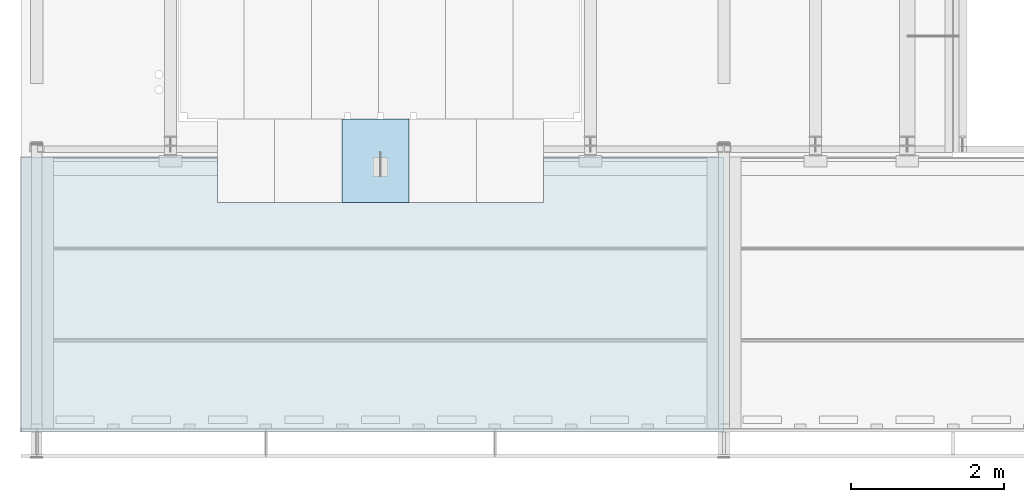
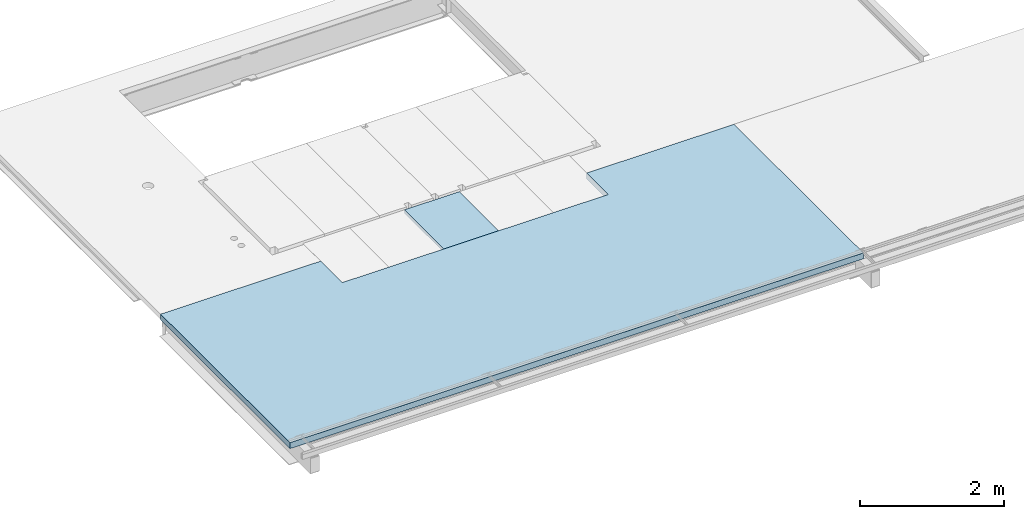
# One storey, part 10 of 13: 2 slabs.
"""IFC2X3 building model written with IfcOpenShell, lengths in millimetres."""

from ifc_helpers import new_model, entity, si_unit, converted_unit, derived_unit, direction, frame, origin_with_axes, place, context, subcontext, project, spatial, faceted_brep, material, type_object, element, save


model = new_model("IFC2X3")

# Units and contexts
model_context = context("Model", 3, precision=0.01, world=frame((0.0, 4.29681676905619e-09, 0.0)), true_north=direction((4.01073788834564e-13, 1.0)))
plan_context = context("Plan", 3, precision=0.01, world=frame((0.0, 4.29681676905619e-09, 0.0)), true_north=direction((4.01073788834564e-13, 1.0)))
body_context = subcontext(model_context, "Body", "Model", "MODEL_VIEW")
ifc_project = project(units=[converted_unit("PLANEANGLEUNIT", "DEGREE", entity("IfcPositiveLengthMeasure", 0.0174532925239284), si_unit("PLANEANGLEUNIT", "RADIAN"), dimensions=[0, 0, 0, 0, 0, 0, 0]), si_unit("AREAUNIT", "SQUARE_METRE"), si_unit("LENGTHUNIT", "METRE", prefix="MILLI"), si_unit("MASSUNIT", "GRAM", prefix="KILO"), si_unit("POWERUNIT", "WATT"), si_unit("PRESSUREUNIT", "PASCAL", prefix="KILO"), si_unit("FORCEUNIT", "NEWTON", prefix="KILO"), si_unit("ELECTRICVOLTAGEUNIT", "VOLT"), si_unit("ELECTRICCURRENTUNIT", "AMPERE"), si_unit("THERMODYNAMICTEMPERATUREUNIT", "DEGREE_CELSIUS"), si_unit("TIMEUNIT", "SECOND"), si_unit("VOLUMEUNIT", "CUBIC_METRE"), derived_unit("LINEARVELOCITYUNIT", [(si_unit("LENGTHUNIT", "METRE"), 1), (si_unit("TIMEUNIT", "SECOND"), -1)]), derived_unit("VOLUMETRICFLOWRATEUNIT", [(si_unit("VOLUMEUNIT", "CUBIC_METRE"), 1), (si_unit("TIMEUNIT", "SECOND"), -1)]), derived_unit("THERMALTRANSMITTANCEUNIT", [(si_unit("POWERUNIT", "WATT"), 1), (si_unit("THERMODYNAMICTEMPERATUREUNIT", "KELVIN"), -1), (si_unit("AREAUNIT", "SQUARE_METRE"), -1)]), derived_unit("SOUNDPRESSUREUNIT", [(si_unit("PRESSUREUNIT", "PASCAL"), 1)])], contexts=[model_context, plan_context])

# Site, building, storey
site_placement = place(None, frame((0.0, -4.29681676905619e-09, 0.0), z_axis=(0.0, 0.0, 1.0), x_axis=(1.0, 0.0, 0.0)))
site = spatial("IfcSite", under=ifc_project, at=site_placement, Name="Gardermoen", CompositionType="ELEMENT")
building_placement = place(site_placement, frame((0.0, 4.29681676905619e-09, 0.0), z_axis=(0.0, 0.0, 1.0), x_axis=(1.0, 0.0, 0.0)))
building = spatial("IfcBuilding", under=site, at=building_placement, Name="TG", CompositionType="ELEMENT")
storey_placement = place(building_placement, origin_with_axes())
storey = spatial("IfcBuildingStorey", under=building, at=storey_placement, Name="G", CompositionType="ELEMENT", Elevation=0.0)

# Slabs
ifc_material = material(Name="CONCRETE/C35/45")
slab_type_1 = type_object("IfcSlabType", Name="PLNJABE56.4*40*42.6*71*32.5", PredefinedType="NOTDEFINED")
slab_1_placement = place(storey_placement, frame((326436.0017314, 462614.999534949, 213610.5), z_axis=(0.0, 0.0, 1.0), x_axis=(-1.7069999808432e-06, -0.999999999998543, 0.0)))
element("IfcSlab", 1, at=slab_1_placement, inside=storey, type_object=slab_type_1, material=ifc_material, Name="PLASSTØPTDEKKE", ObjectType="PLNJABE56.4*40*42.6*71*32.5", PredefinedType="FLOOR", context=body_context, shape_type="Brep", body=[
    faceted_brep([(-9.89530235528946e-10, 420.00000000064, -6.89999999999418), (-1.04773789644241e-09, 440.00000000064, -6.89999999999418), (1095.00205200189, 440.000000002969, -6.89999999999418), (1095.00205200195, 420.000000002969, -6.89999999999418), (-1.04773789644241e-09, 440.00000000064, 49.5), (1095.00205200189, 440.000000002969, 49.5), (8.14907252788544e-10, -440.00000000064, 49.5), (1095.00205200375, -439.999999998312, 49.5), (8.14907252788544e-10, -440.00000000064, -6.89999999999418), (1095.00205200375, -439.999999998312, -6.89999999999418), (8.14907252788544e-10, -420.000000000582, -6.89999999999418), (1095.00205200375, -419.999999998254, -6.89999999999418), (7.56699591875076e-10, -387.500000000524, -49.5), (1095.00205200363, -387.499999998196, -49.5), (5.82076609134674e-10, -316.500000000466, -49.5), (1095.00205200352, -316.499999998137, -49.5), (5.23868948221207e-10, -284.000000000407, -6.89999999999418), (1095.00205200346, -283.999999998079, -6.89999999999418), (4.07453626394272e-10, -244.000000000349, -6.89999999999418), (1095.00205200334, -243.999999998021, -6.89999999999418), (3.49245965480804e-10, -211.500000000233, -49.5), (1095.00205200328, -211.499999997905, -49.5), (2.3283064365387e-10, -140.500000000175, -49.5), (1095.00205200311, -140.499999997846, -49.5), (1.16415321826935e-10, -108.000000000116, -6.89999999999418), (1095.00205200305, -107.999999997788, -6.89999999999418), (5.82076609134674e-11, -68.0000000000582, -6.89999999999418), (1095.00205200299, -67.9999999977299, -6.89999999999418), (0.0, -35.5000000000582, -49.5), (1095.00205200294, -35.4999999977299, -49.5), (-1.74622982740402e-10, 35.5000000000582, -49.5), (1095.00205200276, 35.5000000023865, -49.5), (-2.3283064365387e-10, 68.0000000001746, -6.89999999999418), (1095.0020520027, 68.0000000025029, -6.89999999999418), (-3.49245965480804e-10, 108.000000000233, -6.89999999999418), (1095.00205200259, 108.000000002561, -6.89999999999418), (-4.07453626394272e-10, 140.500000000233, -49.5), (1095.00205200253, 140.500000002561, -49.5), (-5.23868948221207e-10, 211.500000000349, -49.5), (1095.00205200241, 211.500000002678, -49.5), (-5.82076609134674e-10, 244.000000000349, -6.89999999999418), (1095.0020520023, 244.000000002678, -6.89999999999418), (-6.98491930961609e-10, 284.000000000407, -6.89999999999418), (1095.00205200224, 284.000000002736, -6.89999999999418), (-7.56699591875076e-10, 316.500000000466, -49.5), (1095.00205200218, 316.500000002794, -49.5), (-9.31322574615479e-10, 387.50000000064, -49.5), (1095.002052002, 387.500000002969, -49.5)], [[[0, 1, 2, 3]], [[1, 4, 5, 2]], [[4, 6, 7, 5]], [[6, 8, 9, 7]], [[8, 10, 11, 9]], [[10, 12, 13, 11]], [[12, 14, 15, 13]], [[14, 16, 17, 15]], [[16, 18, 19, 17]], [[18, 20, 21, 19]], [[20, 22, 23, 21]], [[22, 24, 25, 23]], [[24, 26, 27, 25]], [[26, 28, 29, 27]], [[28, 30, 31, 29]], [[30, 32, 33, 31]], [[32, 34, 35, 33]], [[34, 36, 37, 35]], [[36, 38, 39, 37]], [[38, 40, 41, 39]], [[40, 42, 43, 41]], [[42, 44, 45, 43]], [[44, 46, 47, 45]], [[46, 0, 3, 47]], [[5, 7, 9, 11, 13, 15, 17, 19, 21, 23, 25, 27, 29, 31, 33, 35, 37, 39, 41, 43, 45, 47, 3, 2]], [[46, 44, 42, 40, 38, 36, 34, 32, 30, 28, 26, 24, 22, 20, 18, 16, 14, 12, 10, 8, 6, 4, 1, 0]]]),
])
slab_type_2 = type_object("IfcSlabType", Name="100*3600", PredefinedType="NOTDEFINED")
slab_2_placement = place(storey_placement, frame((330999.999766, 462120.01123, 213610.0), z_axis=(-1.0, 0.0, 0.0), x_axis=(0.0, -1.0, 0.0)))
element("IfcSlab", 2, at=slab_2_placement, inside=storey, type_object=slab_type_2, Name="PÅSTØP", ObjectType="100*3600", PredefinedType="FLOOR", context=body_context, shape_type="Brep", body=[
    faceted_brep([(1.74622982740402e-10, 50.0, 6.40284270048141e-10), (0.0, 50.0, 2364.0), (0.0, -50.0, 2364.0), (-2.91038304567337e-10, -50.0, -7.27595761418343e-10), (600.013244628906, 50.0, 2364.0), (600.013244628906, -50.0, 2364.0), (600.013244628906, 50.0, 6635.0), (600.013244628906, -50.0, 6635.0), (0.0, 50.0, 6635.0), (0.0, -50.0, 6635.0), (0.0, 50.0, 9205.24976599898), (0.0, -50.0, 9205.24976599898), (3600.00973221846, -50.0, 9205.24976599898), (3600.00973221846, 50.0, 9205.24976599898), (3600.01123046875, 50.0, 0.0), (3600.01123046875, -50.0, 0.0)], [[[0, 1, 2, 3]], [[1, 4, 5, 2]], [[4, 6, 7, 5]], [[6, 8, 9, 7]], [[10, 11, 9, 8]], [[12, 13, 14, 15]], [[14, 0, 3, 15]], [[13, 10, 8, 6, 4, 1, 0, 14]], [[11, 12, 15, 3, 2, 5, 7, 9]], [[13, 12, 11, 10]]], orient=[[False], [False], [False], [False], [False], [False], [False], [False], [False], [False]]),
])

save(model, "model.ifc")
